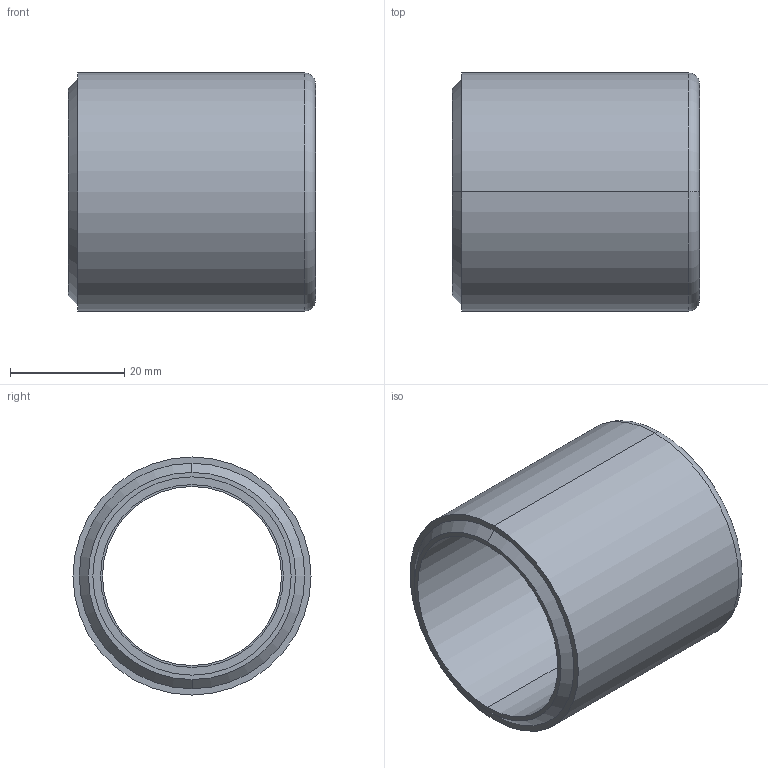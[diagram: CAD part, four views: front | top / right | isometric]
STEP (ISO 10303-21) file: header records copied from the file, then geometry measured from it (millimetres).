
FILE_DESCRIPTION (( 'STEP AP214' ), '1' );
FILE_NAME ('CR-INFV-07-08.STEP', '2020-12-10T16:58:35', ( '' ), ( '' ), 'SwSTEP 2.0', 'SolidWorks 2019', '' );
FILE_SCHEMA (( 'AUTOMOTIVE_DESIGN' ));
Length unit declared in the file: inch
Products named in the file (1): CR-INFV-07-08
Bounding box: 43.22 x 41.66 x 41.66 mm (x, y, z)
Volume: 20367.9 mm3; surface area: 11144.9 mm2
Topology: 1 solids, 1 shells, 20 faces, 40 edges, 26 vertices
Faces by surface type: cylinder 10, plane 6, cone 2, torus 2
Entity records: 840 total; most frequent: DIRECTION 110, CARTESIAN_POINT 87, ORIENTED_EDGE 80, AXIS2_PLACEMENT_3D 49, EDGE_CURVE 40, CIRCLE 28, EDGE_LOOP 26, VERTEX_POINT 26
